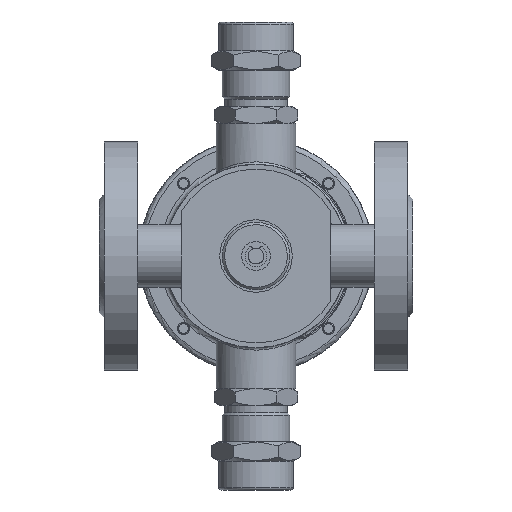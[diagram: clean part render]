
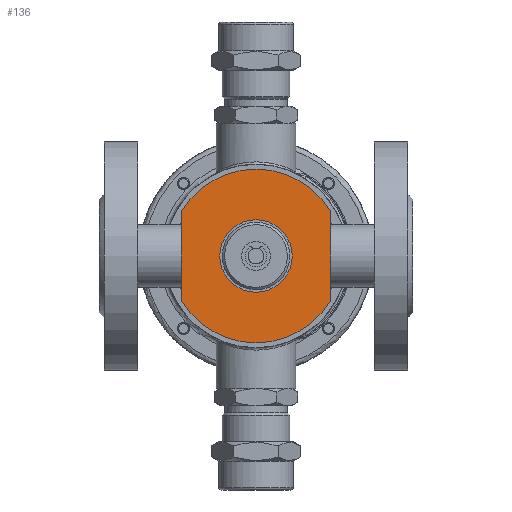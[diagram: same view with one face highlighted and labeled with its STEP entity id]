
A CAD part, front view. The second image highlights one B-rep face of the part: STEP entity #136.
In plain terms, the highlighted planar face has unit normal (0, -1, 0).
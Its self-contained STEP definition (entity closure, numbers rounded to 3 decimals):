
#136=ADVANCED_FACE('',(#5347,#5349),#5351,.T.);
#5347=FACE_BOUND('',#5348,.T.);
#5348=EDGE_LOOP('',(#20571));
#5349=FACE_OUTER_BOUND('',#5350,.T.);
#5350=EDGE_LOOP('',(#20572,#20573,#20574,#20575));
#5351=PLANE('',#5352);
#5352=AXIS2_PLACEMENT_3D('',#5353,#5354,#5355);
#5353=CARTESIAN_POINT('',(0.,-15.5,0.));
#5354=DIRECTION('',(0.,-1.,-0.));
#5355=DIRECTION('',(-1.,0.,0.));
#20571=ORIENTED_EDGE('',*,*,#33624,.F.);
#20572=ORIENTED_EDGE('',*,*,#33582,.T.);
#20573=ORIENTED_EDGE('',*,*,#33590,.T.);
#20574=ORIENTED_EDGE('',*,*,#33588,.T.);
#20575=ORIENTED_EDGE('',*,*,#33585,.T.);
#33582=EDGE_CURVE('',#38159,#38160,#38161,.F.);
#33585=EDGE_CURVE('',#38164,#38159,#38165,.T.);
#33588=EDGE_CURVE('',#38169,#38164,#38170,.F.);
#33590=EDGE_CURVE('',#38160,#38169,#38172,.T.);
#33624=EDGE_CURVE('',#38224,#38224,#38225,.T.);
#38159=VERTEX_POINT('',#45778);
#38160=VERTEX_POINT('',#45779);
#38161=LINE('',#45780,#45781);
#38164=VERTEX_POINT('',#45789);
#38165=CIRCLE('',#45790,36.);
#38169=VERTEX_POINT('',#45802);
#38170=LINE('',#45803,#45804);
#38172=CIRCLE('',#45809,36.);
#38224=VERTEX_POINT('',#46182);
#38225=CIRCLE('',#46183,15.);
#45778=CARTESIAN_POINT('',(-31.,-15.5,18.303));
#45779=CARTESIAN_POINT('',(-31.,-15.5,-18.303));
#45780=CARTESIAN_POINT('',(-31.,-15.5,-18.303));
#45781=VECTOR('',#45782,1.);
#45782=DIRECTION('',(0.,0.,1.));
#45789=CARTESIAN_POINT('',(31.,-15.5,18.303));
#45790=AXIS2_PLACEMENT_3D('',#45791,#45792,#45793);
#45791=CARTESIAN_POINT('',(0.,-15.5,0.));
#45792=DIRECTION('',(0.,-1.,-0.));
#45793=DIRECTION('',(0.861,0.,0.508));
#45802=CARTESIAN_POINT('',(31.,-15.5,-18.303));
#45803=CARTESIAN_POINT('',(31.,-15.5,18.303));
#45804=VECTOR('',#45805,1.);
#45805=DIRECTION('',(0.,0.,-1.));
#45809=AXIS2_PLACEMENT_3D('',#45810,#45811,#45812);
#45810=CARTESIAN_POINT('',(0.,-15.5,0.));
#45811=DIRECTION('',(0.,-1.,-0.));
#45812=DIRECTION('',(-0.861,0.,-0.508));
#46182=CARTESIAN_POINT('',(-15.,-15.5,0.));
#46183=AXIS2_PLACEMENT_3D('',#46184,#46185,#46186);
#46184=CARTESIAN_POINT('',(0.,-15.5,0.));
#46185=DIRECTION('',(0.,-1.,-0.));
#46186=DIRECTION('',(-1.,0.,0.));
